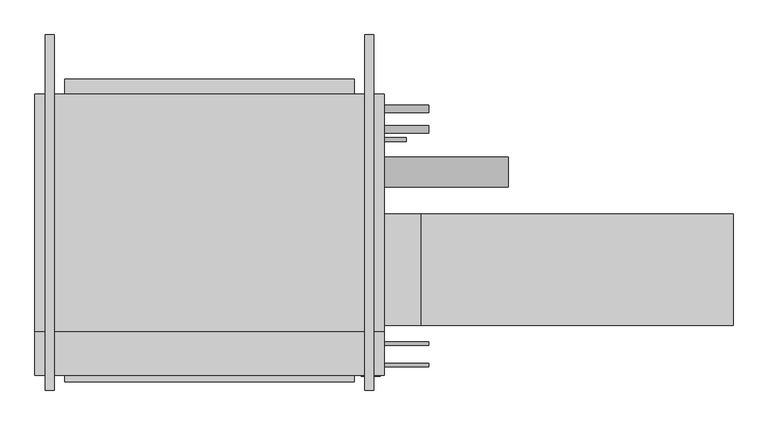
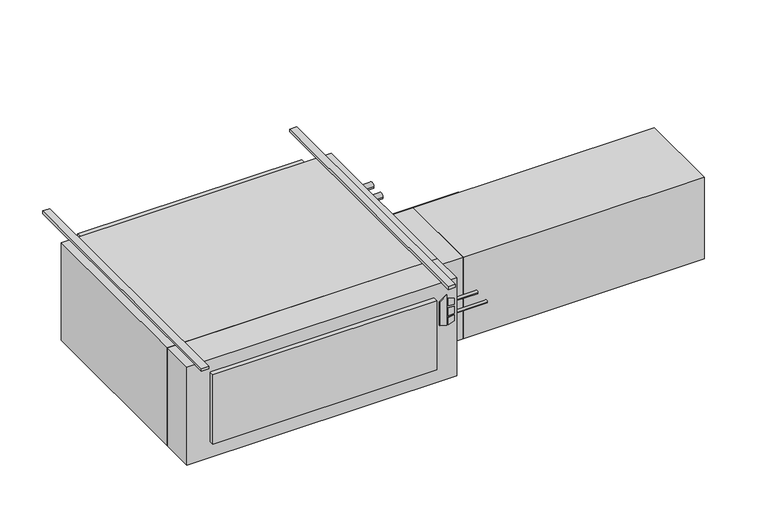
"""IFC4 building model written with IfcOpenShell, lengths in millimetres: proxy geometry."""

from ifc_helpers import new_model, si_unit, point, frame, frame_2d, origin, origin_with_axes, place, context, project, spatial, polyline, circle_curve, trimmed, segment, composite_curve, outline, extrude, source, transform, mapped, element, save


def mechanical_equipment_ed54f031(model_context):
    return source(origin(), model_context, "Body", "SweptSolid", [
        extrude(outline(polyline([(-193.2519297, 671.5868862), (-203.2, 703.7602728), (-61.0290756, 703.7602728), (-84.0510817, 671.5868862), (-193.2519297, 671.5868862)])), frame((0.0, -797.052, 0.0), z_axis=(0.0, 1.0, 0.0), x_axis=(0.0, 0.0, 1.0)), (0.0, 0.0, 1.0), 3.175),
        extrude(outline(polyline([(-114.2526443, 710.5186058), (-117.4550368, 736.6), (-88.2261958, 736.6), (-80.1617807, 710.5186058), (-114.2526443, 710.5186058)])), frame((0.0, -797.052, 0.0), z_axis=(0.0, 1.0, 0.0), x_axis=(0.0, 0.0, 1.0)), (0.0, 0.0, 1.0), 3.175),
        extrude(outline(polyline([(-166.1161712, 736.6), (-169.7816721, 710.5186058), (-203.2, 710.5186058), (-194.5657628, 736.6), (-166.1161712, 736.6)])), frame((0.0, -797.052, 0.0), z_axis=(0.0, 1.0, 0.0), x_axis=(0.0, 0.0, 1.0)), (0.0, 0.0, 1.0), 3.175),
        extrude(outline(polyline([(-126.8010097, 736.6), (-124.5191834, 710.5186058), (-160.4567319, 710.5186058), (-157.7154669, 736.6), (-126.8010097, 736.6)])), frame((0.0, -797.052, 0.0), z_axis=(0.0, 1.0, 0.0), x_axis=(0.0, 0.0, 1.0)), (0.0, 0.0, 1.0), 3.175),
        extrude(outline(polyline([(749.3, -793.877), (-444.5, -793.877), (-444.5, -644.525), (749.3, -644.525), (749.3, -793.877)])), frame((0.0, 0.0, -457.2), z_axis=(0.0, 0.0, 1.0), x_axis=(1.0, 0.0, 0.0)), (0.0, 0.0, 1.0), 457.2),
        extrude(outline(polyline([(647.7, -816.229), (-342.9, -816.229), (-342.9, -793.877), (647.7, -793.877), (647.7, -816.229)])), frame((0.0, 0.0, -381.0), z_axis=(0.0, 0.0, 1.0), x_axis=(1.0, 0.0, 0.0)), (0.0, 0.0, 1.0), 323.85),
        extrude(outline(polyline([(1943.1, -241.3), (1943.1, -622.3), (876.3, -622.3), (876.3, -241.3), (1943.1, -241.3)])), frame((0.0, 0.0, -431.8), z_axis=(0.0, 0.0, 1.0), x_axis=(1.0, 0.0, 0.0)), (0.0, 0.0, 1.0), 381.0),
        extrude(outline(polyline([(876.3, -241.3), (876.3, -622.3), (749.3, -622.3), (749.3, -241.3), (876.3, -241.3)])), frame((0.0, 0.0, -431.8), z_axis=(0.0, 0.0, 1.0), x_axis=(1.0, 0.0, 0.0)), (0.0, 0.0, 1.0), 381.0),
        extrude(outline(composite_curve([segment(trimmed(circle_curve(frame_2d((-758.825, -184.15)), 6.35), [point((-752.475, -184.15))], [point((-765.175, -184.15))], False, "CARTESIAN"), True, "CONTINUOUS"), segment(trimmed(circle_curve(frame_2d((-758.825, -184.15)), 6.35), [point((-765.175, -184.15))], [point((-752.475, -184.15))], False, "CARTESIAN"), True, "CONTINUOUS")], self_intersect=False)), frame((749.3, 0.0, 0.0), z_axis=(1.0, 0.0, 0.0), x_axis=(0.0, 1.0, 0.0)), (0.0, 0.0, 1.0), 152.4),
        extrude(outline(composite_curve([segment(trimmed(circle_curve(frame_2d((-685.8, -184.15)), 6.35), [point((-679.45, -184.15))], [point((-692.15, -184.15))], False, "CARTESIAN"), True, "CONTINUOUS"), segment(trimmed(circle_curve(frame_2d((-685.8, -184.15)), 6.35), [point((-692.15, -184.15))], [point((-679.45, -184.15))], False, "CARTESIAN"), True, "CONTINUOUS")], self_intersect=False)), frame((749.3, 0.0, 0.0), z_axis=(1.0, 0.0, 0.0), x_axis=(0.0, 1.0, 0.0)), (0.0, 0.0, 1.0), 152.4),
        extrude(outline(composite_curve([segment(trimmed(circle_curve(frame_2d((117.475, -171.45)), 12.7), [point((130.175, -171.45))], [point((104.775, -171.45))], False, "CARTESIAN"), True, "CONTINUOUS"), segment(trimmed(circle_curve(frame_2d((117.475, -171.45)), 12.7), [point((104.775, -171.45))], [point((130.175, -171.45))], False, "CARTESIAN"), True, "CONTINUOUS")], self_intersect=False)), frame((749.3, 0.0, 0.0), z_axis=(1.0, 0.0, 0.0), x_axis=(0.0, 1.0, 0.0)), (0.0, 0.0, 1.0), 152.4),
        extrude(outline(composite_curve([segment(trimmed(circle_curve(frame_2d((47.625, -177.8)), 12.7), [point((60.325, -177.8))], [point((34.925, -177.8))], False, "CARTESIAN"), True, "CONTINUOUS"), segment(trimmed(circle_curve(frame_2d((47.625, -177.8)), 12.7), [point((34.925, -177.8))], [point((60.325, -177.8))], False, "CARTESIAN"), True, "CONTINUOUS")], self_intersect=False)), frame((749.3, 0.0, 0.0), z_axis=(1.0, 0.0, 0.0), x_axis=(0.0, 1.0, 0.0)), (0.0, 0.0, 1.0), 152.4),
        extrude(outline(composite_curve([segment(trimmed(circle_curve(frame_2d((-98.4896516, -228.6360165)), 50.8), [point((-47.6896516, -228.6360165))], [point((-149.2896516, -228.6360165))], False, "CARTESIAN"), True, "CONTINUOUS"), segment(trimmed(circle_curve(frame_2d((-98.4896516, -228.6360165)), 50.8), [point((-149.2896516, -228.6360165))], [point((-47.6896516, -228.6360165))], False, "CARTESIAN"), True, "CONTINUOUS")], self_intersect=False)), frame((749.3, 0.0, 0.0), z_axis=(1.0, 0.0, 0.0), x_axis=(0.0, 1.0, 0.0)), (0.0, 0.0, 1.0), 425.45),
        extrude(outline(composite_curve([segment(trimmed(circle_curve(frame_2d((12.7, -409.575)), 6.35), [point((19.05, -409.575))], [point((6.35, -409.575))], False, "CARTESIAN"), True, "CONTINUOUS"), segment(trimmed(circle_curve(frame_2d((12.7, -409.575)), 6.35), [point((6.35, -409.575))], [point((19.05, -409.575))], False, "CARTESIAN"), True, "CONTINUOUS")], self_intersect=False)), frame((749.3, 0.0, 0.0), z_axis=(1.0, 0.0, 0.0), x_axis=(0.0, 1.0, 0.0)), (0.0, 0.0, 1.0), 76.2),
        extrude(outline(polyline([(749.3, 168.275), (749.3, -644.525), (-444.5, -644.525), (-444.5, 168.275), (749.3, 168.275)])), frame((0.0, 0.0, -457.2), z_axis=(0.0, 0.0, 1.0), x_axis=(1.0, 0.0, 0.0)), (0.0, 0.0, 1.0), 457.2),
        extrude(outline(polyline([(-342.9, 219.075), (647.7, 219.075), (647.7, 168.275), (-342.9, 168.275), (-342.9, 219.075)])), frame((0.0, 0.0, -381.0), z_axis=(0.0, 0.0, 1.0), x_axis=(1.0, 0.0, 0.0)), (0.0, 0.0, 1.0), 355.6),
        extrude(outline(polyline([(-377.825, 371.475), (-377.825, -844.677), (-409.575, -844.677), (-409.575, 371.475), (-377.825, 371.475)])), origin_with_axes(), (0.0, 0.0, 1.0), 12.7),
        extrude(outline(polyline([(714.375, 371.475), (714.375, -844.677), (682.625, -844.677), (682.625, 371.475), (714.375, 371.475)])), origin_with_axes(), (0.0, 0.0, 1.0), 12.7),
    ])


if __name__ == "__main__":
    model = new_model("IFC4")
    model_context = context("Model", 3, world=origin())
    ifc_project = project(units=[si_unit("LENGTHUNIT", "METRE", prefix="MILLI")], contexts=[model_context])
    site = spatial("IfcSite", under=ifc_project)
    building = spatial("IfcBuilding", under=site)
    placement = place(None, origin())
    mechanical_equipment_shape = mechanical_equipment_ed54f031(model_context)
    element("IfcBuildingElementProxy", 1, Name="High_Capacity_Horizontal_Cabinet_Fan_Coil_Unit_-_HTY_-_IEC_-_4-Pipe_RH Side_2022 : Size 16 - 115v/60Hz/1Ph - 4/1 Coil - 4\" AirIn", ObjectType="High_Capacity_Horizontal_Cabinet_Fan_Coil_Unit_-_HTY_-_IEC_-_4-Pipe_RH Side_2022 : Size 16 - 115v/60Hz/1Ph - 4/1 Coil - 4\" AirIn", at=placement, inside=building, context=model_context, shape_type="MappedRepresentation", body=[
        mapped(mechanical_equipment_shape, transform((0.0, 0.0, 0.0), x_axis=(1.0, 0.0, 0.0), y_axis=(0.0, 1.0, 0.0), z_axis=(0.0, 0.0, 1.0))),
    ])
    save(model, "model.ifc")
